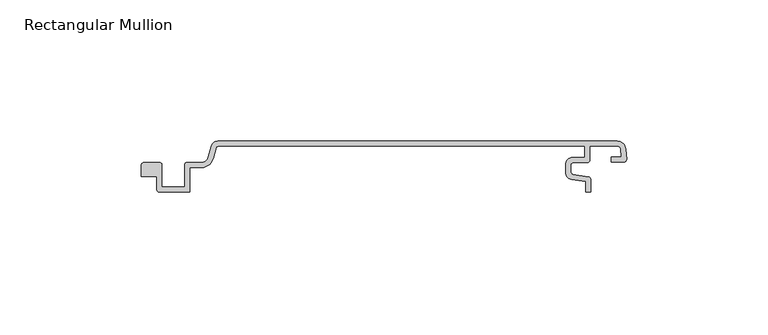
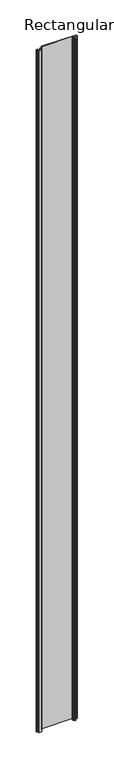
"""IFC4 building model written with IfcOpenShell, lengths in millimetres: member geometry, Rectangular Mullion : Cladding_Aluminium_Modinex_AluSelekta_Channel_155_AfricanEbony."""

import ifcopenshell
import ifcopenshell.guid

model = None  # the IFC model being written
_history = None  # IfcOwnerHistory: only IFC2X3 demands one
_inside = {}  # id of a spatial element -> (the spatial element, [elements in it])
_under = {}  # id of a project, library or spatial element -> (it, [spatial elements below it])
_declared = {}  # id of a project -> (the project, [libraries it declares])
_typed = {}  # id of a type object -> (the type object, [elements of that type])
_made_of = {}  # id of a material, layer set ... -> (it, [elements and type objects made of it])


def new_model(schema):
    """Start an empty IFC model of exactly this schema.

    Asked for "IFC4X3", IfcOpenShell would pick the latest addendum, in which some entities
    have other attributes; the version numbers below select the first issue.
    IFC2X3 requires an IfcOwnerHistory on every rooted entity: one is made here for all.
    """
    global model, _history
    if schema == "IFC4X3":
        model = ifcopenshell.file(schema_version=(4, 3, 0, 0))
    else:
        model = ifcopenshell.file(schema=schema)
    _inside.clear()
    _under.clear()
    _declared.clear()
    _typed.clear()
    _made_of.clear()
    _history = None
    if model.schema == "IFC2X3":
        org = make("IfcOrganization", Name="unknown")
        user = make(
            "IfcPersonAndOrganization",
            ThePerson=make("IfcPerson", FamilyName="unknown"),
            TheOrganization=org,
        )
        app = make(
            "IfcApplication",
            ApplicationDeveloper=org,
            Version="unknown",
            ApplicationFullName="unknown",
            ApplicationIdentifier="unknown",
        )
        _history = make(
            "IfcOwnerHistory",
            OwningUser=user,
            OwningApplication=app,
            ChangeAction="ADDED",
            CreationDate=0,
        )
    return model


def make(cls, **values):
    """One entity of the class cls with the attributes given. An attribute that is None is left unset."""
    return model.create_entity(
        cls, **{name: value for name, value in values.items() if value is not None}
    )


def rooted(cls, **values):
    """An entity with a GlobalId (a new one), such as an element, a storey or a relation."""
    return make(cls, GlobalId=ifcopenshell.guid.new(), OwnerHistory=_history, **values)


def si_unit(unit_type, name, prefix=None):
    """IfcSIUnit, for example si_unit("LENGTHUNIT", "METRE", prefix="MILLI")."""
    return make("IfcSIUnit", UnitType=unit_type, Prefix=prefix, Name=name)


def assignment(units):
    """IfcUnitAssignment: the units of a project."""
    return None if units is None else make("IfcUnitAssignment", Units=units)


def point(xyz):
    """IfcCartesianPoint."""
    return None if xyz is None else make("IfcCartesianPoint", Coordinates=xyz)


def direction(xyz):
    """IfcDirection."""
    return None if xyz is None else make("IfcDirection", DirectionRatios=xyz)


def frame(location, z_axis=None, x_axis=None):
    """IfcAxis2Placement3D, a coordinate frame: its origin and axes. An axis left out is left unset."""
    return make(
        "IfcAxis2Placement3D",
        Location=point(location),
        Axis=direction(z_axis),
        RefDirection=direction(x_axis),
    )


def frame_2d(location, x_axis=None):
    """IfcAxis2Placement2D, a coordinate frame in the plane: its origin and x axis."""
    return make(
        "IfcAxis2Placement2D", Location=point(location), RefDirection=direction(x_axis)
    )


def origin():
    """The frame at (0, 0, 0) with its axes left unset."""
    return frame((0.0, 0.0, 0.0))


def place(relative_to, where):
    """IfcLocalPlacement: puts the frame where relative to a parent placement (None: the world)."""
    return make(
        "IfcLocalPlacement", PlacementRelTo=relative_to, RelativePlacement=where
    )


def context(
    kind, dimensions, precision=None, world=None, true_north=None, identifier=None
):
    """IfcGeometricRepresentationContext, for example the 3D "Model" context."""
    return make(
        "IfcGeometricRepresentationContext",
        ContextIdentifier=identifier,
        ContextType=kind,
        CoordinateSpaceDimension=dimensions,
        Precision=precision,
        WorldCoordinateSystem=world,
        TrueNorth=true_north,
    )


def project(units=None, contexts=None):
    """IfcProject with its units and contexts."""
    return rooted(
        "IfcProject",
        Name="project",
        RepresentationContexts=contexts,
        UnitsInContext=assignment(units),
    )


def spatial(cls, under=None, at=None, **own):
    """A site, building, storey or space (cls), placed at a placement, below another one or the project."""
    s = rooted(cls, ObjectPlacement=at, **own)
    if under is not None:
        _under.setdefault(under.id(), (under, []))[1].append(s)
    return s


def polyline(points):
    """IfcPolyline through the points."""
    return make("IfcPolyline", Points=[point(p) for p in points])


def circle_curve(where, radius):
    """IfcCircle in the frame where."""
    return make("IfcCircle", Position=where, Radius=radius)


def trimmed(basis, trim1, trim2, sense, master):
    """IfcTrimmedCurve: the piece of a basis curve between two trims."""
    return make(
        "IfcTrimmedCurve",
        BasisCurve=basis,
        Trim1=trim1,
        Trim2=trim2,
        SenseAgreement=sense,
        MasterRepresentation=master,
    )


def segment(curve, same_sense, transition):
    """IfcCompositeCurveSegment."""
    return make(
        "IfcCompositeCurveSegment",
        Transition=transition,
        SameSense=same_sense,
        ParentCurve=curve,
    )


def composite_curve(segments, self_intersect=None):
    """IfcCompositeCurve: segments joined end to end."""
    return make("IfcCompositeCurve", Segments=segments, SelfIntersect=self_intersect)


def outline(outer, holes=None, kind="AREA"):
    """IfcArbitraryClosedProfileDef: a profile drawn as a closed curve; with holes, ...WithVoids."""
    if holes is None:
        return make("IfcArbitraryClosedProfileDef", ProfileType=kind, OuterCurve=outer)
    return make(
        "IfcArbitraryProfileDefWithVoids",
        ProfileType=kind,
        OuterCurve=outer,
        InnerCurves=holes,
    )


def extrude(swept, where, along, depth):
    """IfcExtrudedAreaSolid: the profile swept, set in the frame where, extruded along a direction by depth."""
    return make(
        "IfcExtrudedAreaSolid",
        SweptArea=swept,
        Position=where,
        ExtrudedDirection=direction(along),
        Depth=depth,
    )


def shape(context_of_items, identifier, shape_type, items):
    """IfcShapeRepresentation: the items that make up one representation, for example the "Body"."""
    return make(
        "IfcShapeRepresentation",
        ContextOfItems=context_of_items,
        RepresentationIdentifier=identifier,
        RepresentationType=shape_type,
        Items=items,
    )


def source(mapping_origin, context_of_items, identifier, shape_type, items):
    """IfcRepresentationMap: a shape defined once, which mapped items show again and again."""
    return make(
        "IfcRepresentationMap",
        MappingOrigin=mapping_origin,
        MappedRepresentation=shape(context_of_items, identifier, shape_type, items),
    )


def transform(
    local_origin,
    x_axis=None,
    y_axis=None,
    z_axis=None,
    scale=None,
    scale2=None,
    scale3=None,
    uniform=True,
):
    """IfcCartesianTransformationOperator3D, or its non-uniform kind. x_axis, y_axis, z_axis: its Axis1, 2, 3."""
    if uniform:
        return make(
            "IfcCartesianTransformationOperator3D",
            Axis1=direction(x_axis),
            Axis2=direction(y_axis),
            LocalOrigin=point(local_origin),
            Scale=scale,
            Axis3=direction(z_axis),
        )
    return make(
        "IfcCartesianTransformationOperator3DnonUniform",
        Axis1=direction(x_axis),
        Axis2=direction(y_axis),
        LocalOrigin=point(local_origin),
        Scale=scale,
        Axis3=direction(z_axis),
        Scale2=scale2,
        Scale3=scale3,
    )


def mapped(mapping_source, mapping_target):
    """IfcMappedItem: shows the shape of a source again, moved by a transform."""
    return make(
        "IfcMappedItem", MappingSource=mapping_source, MappingTarget=mapping_target
    )


def made_of(thing, what):
    """Note that an element or type object is made of a material, layer set ...; save() writes the relation."""
    if what is not None:
        _made_of.setdefault(what.id(), (what, []))[1].append(thing)
    return thing


def element(
    cls,
    number,
    at=None,
    inside=None,
    cuts=None,
    type_object=None,
    material=None,
    context=None,
    identifier="Body",
    shape_type=None,
    held_by="IfcProductDefinitionShape",
    body=None,
    shapes=None,
    **own,
):
    """One element of the class cls, such as IfcWall. Its Tag is "e" and its number.

    at: its placement. inside: the storey or other place that contains it. cuts: it is an
    opening in that element (IfcRelVoidsElement). A single representation is given by context,
    identifier, shape_type and body (its items); several are given by shapes. held_by: the class
    of the entity that holds the representations. save() writes the other relations.
    """
    e = rooted(cls, Tag="e%d" % number, ObjectPlacement=at, **own)
    if body is not None:
        shapes = [shape(context, identifier, shape_type, body)]
    if shapes is not None:
        e.Representation = make(held_by, Representations=shapes)
    if inside is not None:
        _inside.setdefault(inside.id(), (inside, []))[1].append(e)
    if cuts is not None:
        rooted(
            "IfcRelVoidsElement", RelatingBuildingElement=cuts, RelatedOpeningElement=e
        )
    if type_object is not None:
        _typed.setdefault(type_object.id(), (type_object, []))[1].append(e)
    return made_of(e, material)


def aggregate(whole, parts):
    """IfcRelAggregates: a whole, such as a stair, and the parts it consists of."""
    return rooted("IfcRelAggregates", RelatingObject=whole, RelatedObjects=parts)


def save(model, path):
    """Write the relations noted so far, then the file.

    IfcRelAggregates (storeys below a building ...), IfcRelContainedInSpatialStructure (elements
    in a storey), IfcRelDefinesByType, IfcRelAssociatesMaterial and IfcRelDeclares: one each for
    every whole, place, type object, material and project.
    """
    for whole, parts in _under.values():
        aggregate(whole, parts)
    for where, things in _inside.values():
        rooted(
            "IfcRelContainedInSpatialStructure",
            RelatedElements=things,
            RelatingStructure=where,
        )
    for kind, things in _typed.values():
        rooted("IfcRelDefinesByType", RelatedObjects=things, RelatingType=kind)
    for what, things in _made_of.values():
        rooted("IfcRelAssociatesMaterial", RelatedObjects=things, RelatingMaterial=what)
    for by, libraries in _declared.values():
        rooted("IfcRelDeclares", RelatingContext=by, RelatedDefinitions=libraries)
    model.write(path)


def rectangular_mullion_a9feb706(model_context):
    return source(origin(), model_context, "Body", "SweptSolid", [
        extrude(outline(composite_curve([segment(polyline([(10.4777243, 18.0), (151.7110969, 18.0)]), True, "CONTINUOUS"), segment(trimmed(circle_curve(frame_2d((151.7110969, 15.0197717)), 2.9802283), [point((151.7110969, 18.0))], [point((154.6799845, 15.2795157))], False, "CARTESIAN"), True, "CONTINUOUS"), segment(polyline([(154.6799845, 15.2795157), (155.0, 11.6217221)]), True, "CONTINUOUS"), segment(trimmed(circle_curve(frame_2d((154.1008302, 11.5430549)), 0.9026045), [point((155.0, 11.6217221))], [point((154.1008302, 10.6404505))], False, "CARTESIAN"), True, "CONTINUOUS"), segment(polyline([(154.1008302, 10.6404505), (149.6242205, 10.6404505), (149.6242205, 12.4404505), (153.1214948, 12.4404505), (152.8636728, 15.3873702)]), True, "CONTINUOUS"), segment(trimmed(circle_curve(frame_2d((151.976843, 15.3097827)), 0.8902173), [point((152.8636728, 15.3873702))], [point((151.976843, 16.2))], True, "CARTESIAN"), True, "CONTINUOUS"), segment(polyline([(151.976843, 16.2), (141.9445473, 16.2), (141.9445473, 11.2876206)]), True, "CONTINUOUS"), segment(trimmed(circle_curve(frame_2d((141.0662478, 11.2876206)), 0.8782995), [point((141.9445473, 11.2876206))], [point((141.0662478, 10.4093211))], False, "CARTESIAN"), True, "CONTINUOUS"), segment(polyline([(141.0662478, 10.4093211), (136.1587741, 10.4093211)]), True, "CONTINUOUS"), segment(trimmed(circle_curve(frame_2d((136.1587741, 9.5093211)), 0.9), [point((136.1587741, 10.4093211))], [point((135.2587741, 9.5093211))], True, "CARTESIAN"), True, "CONTINUOUS"), segment(polyline([(135.2587741, 9.5093211), (135.2587741, 7.1198172)]), True, "CONTINUOUS"), segment(trimmed(circle_curve(frame_2d((136.1587741, 7.1198172)), 0.9), [point((135.2587741, 7.1198172))], [point((136.0179831, 6.2308977))], True, "CARTESIAN"), True, "CONTINUOUS"), segment(polyline([(136.0179831, 6.2308977), (141.4988874, 5.3628077)]), True, "CONTINUOUS"), segment(trimmed(circle_curve(frame_2d((141.3580963, 4.4738882)), 0.9), [point((141.4988874, 5.3628077))], [point((142.2580963, 4.4738882))], False, "CARTESIAN"), True, "CONTINUOUS"), segment(polyline([(142.2580963, 4.4738882), (142.2580963, 0.0), (140.4580963, 0.0), (140.4580963, 3.7052156), (135.5534639, 4.4820331)]), True, "CONTINUOUS"), segment(trimmed(circle_curve(frame_2d((135.9419123, 6.9345997)), 2.4831381), [point((135.5534639, 4.4820331))], [point((133.4587741, 6.9345997))], False, "CARTESIAN"), True, "CONTINUOUS"), segment(polyline([(133.4587741, 6.9345997), (133.4587741, 9.69705)]), True, "CONTINUOUS"), segment(trimmed(circle_curve(frame_2d((135.9710452, 9.69705)), 2.5122711), [point((133.4587741, 9.69705))], [point((135.9710452, 12.2093211))], False, "CARTESIAN"), True, "CONTINUOUS"), segment(polyline([(135.9710452, 12.2093211), (140.1445473, 12.2093211), (140.1445473, 16.2), (10.4777243, 16.2)]), True, "CONTINUOUS"), segment(trimmed(circle_curve(frame_2d((10.4777243, 15.5148111)), 0.6851889), [point((10.4777243, 16.2))], [point((9.8158825, 15.692151))], True, "CARTESIAN"), True, "CONTINUOUS"), segment(polyline([(9.8158825, 15.692151), (8.7900782, 11.8637971)]), True, "CONTINUOUS"), segment(trimmed(circle_curve(frame_2d((4.598423, 12.9869477)), 4.3395208), [point((8.7900782, 11.8637971))], [point((4.598423, 8.6474269))], False, "CARTESIAN"), True, "CONTINUOUS"), segment(polyline([(4.598423, 8.6474269), (0.5250094, 8.6474269), (0.5250094, 0.0), (-10.2245596, 0.0)]), True, "CONTINUOUS"), segment(trimmed(circle_curve(frame_2d((-10.2245596, 0.9)), 0.9), [point((-10.2245596, 0.0))], [point((-11.1245596, 0.9))], False, "CARTESIAN"), True, "CONTINUOUS"), segment(polyline([(-11.1245596, 0.9), (-11.1245596, 5.510501), (-16.6121766, 5.510501), (-16.6121766, 9.5136514)]), True, "CONTINUOUS"), segment(trimmed(circle_curve(frame_2d((-15.6784011, 9.5136514)), 0.9337754), [point((-16.6121766, 9.5136514))], [point((-15.6784011, 10.4474269))], False, "CARTESIAN"), True, "CONTINUOUS"), segment(polyline([(-15.6784011, 10.4474269), (-10.2519115, 10.4474269)]), True, "CONTINUOUS"), segment(trimmed(circle_curve(frame_2d((-10.2519115, 9.5200749)), 0.9273519), [point((-10.2519115, 10.4474269))], [point((-9.3245596, 9.5200749))], False, "CARTESIAN"), True, "CONTINUOUS"), segment(polyline([(-9.3245596, 9.5200749), (-9.3245596, 1.8), (-1.2749906, 1.8), (-1.2749906, 9.5474269)]), True, "CONTINUOUS"), segment(trimmed(circle_curve(frame_2d((-0.3749906, 9.5474269)), 0.9), [point((-1.2749906, 9.5474269))], [point((-0.3749906, 10.4474269))], False, "CARTESIAN"), True, "CONTINUOUS"), segment(polyline([(-0.3749906, 10.4474269), (4.598423, 10.4474269)]), True, "CONTINUOUS"), segment(trimmed(circle_curve(frame_2d((4.598423, 12.9869477)), 2.5395208), [point((4.598423, 10.4474269))], [point((7.0514117, 12.3296714))], True, "CARTESIAN"), True, "CONTINUOUS"), segment(polyline([(7.0514117, 12.3296714), (8.0772161, 16.1580253)]), True, "CONTINUOUS"), segment(trimmed(circle_curve(frame_2d((10.4777243, 15.5148111)), 2.4851889), [point((8.0772161, 16.1580253))], [point((10.4777243, 18.0))], False, "CARTESIAN"), True, "CONTINUOUS")], self_intersect=False)), frame((0.0, 0.0, -3000.0), z_axis=(0.0, 0.0, 1.0), x_axis=(1.0, 0.0, 0.0)), (0.0, 0.0, 1.0), 3000.0),
    ])


if __name__ == "__main__":
    model = new_model("IFC4")
    model_context = context("Model", 3, world=origin())
    ifc_project = project(units=[si_unit("LENGTHUNIT", "METRE", prefix="MILLI")], contexts=[model_context])
    site = spatial("IfcSite", under=ifc_project)
    building = spatial("IfcBuilding", under=site)
    placement = place(None, origin())
    rectangular_mullion_shape = rectangular_mullion_a9feb706(model_context)
    element("IfcMember", 1, ObjectType="Rectangular Mullion : Cladding_Aluminium_Modinex_AluSelekta_Channel_155_AfricanEbony", at=placement, inside=building, context=model_context, shape_type="MappedRepresentation", body=[
        mapped(rectangular_mullion_shape, transform((0.0, 0.0, 0.0), x_axis=(1.0, 0.0, 0.0), y_axis=(0.0, 1.0, 0.0), z_axis=(0.0, 0.0, 1.0))),
    ])
    save(model, "model.ifc")
